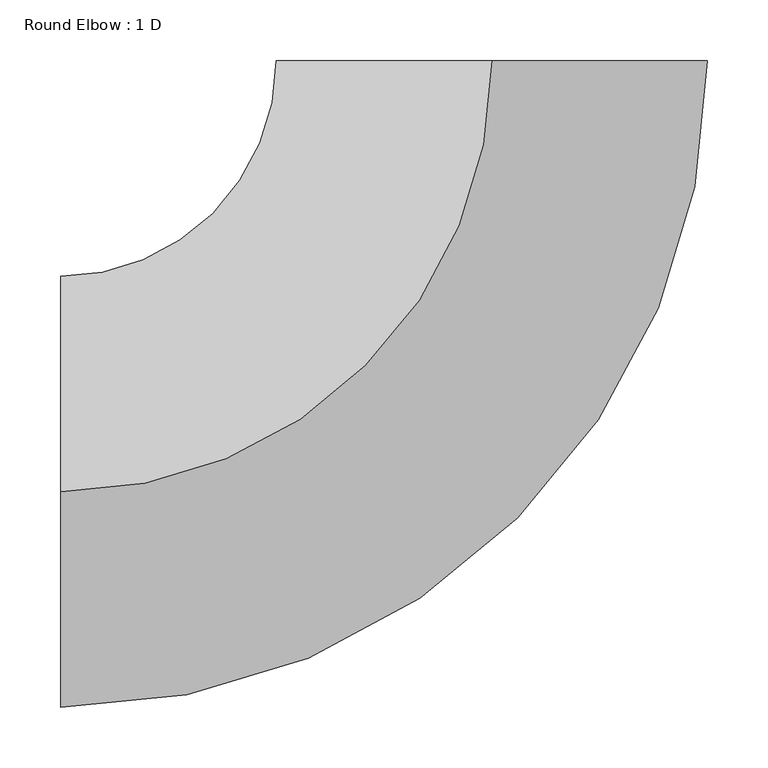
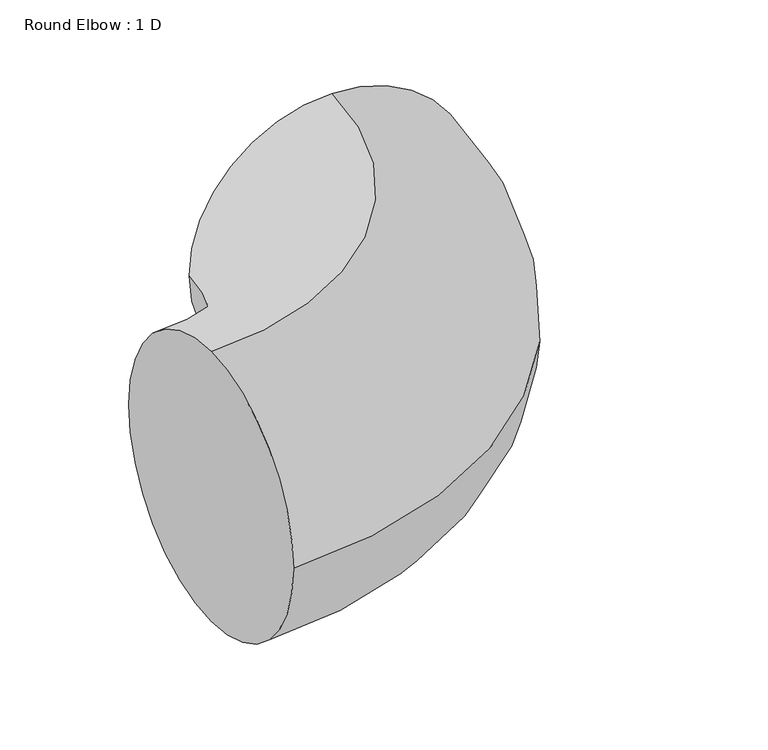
"""IFC4 building model written with IfcOpenShell, lengths in millimetres: duct fitting geometry, Round Elbow : 1 D."""

from ifc_helpers import new_model, si_unit, point, frame, origin, place, context, project, spatial, circle_curve, ellipse_curve, trimmed, source, transform, mapped, element, save
from ifc_brep_helpers import plane_surface, revolved_surface, advanced_brep


def round_elbow_1_d_a89bf638(model_context):
    return source(origin(), model_context, "Body", "AdvancedBrep", [
        advanced_brep(
        [(-355.6, 0.0, 177.8), (-355.6, 177.8, 0.0), (-355.6, 0.0, -177.8), (-355.6, -177.8, 0.0), (0.0, 355.6, 177.8), (177.8, 355.6, 0.0), (0.0, 355.6, -177.8), (-177.8, 355.6, 0.0)],
        [
            (0, 1, circle_curve(frame((-355.6, 0.0, 0.0), z_axis=(-1.0, 0.0, 0.0), x_axis=(0.0, 1.0, 0.0)), 177.8)),
            (1, 2, circle_curve(frame((-355.6, 0.0, 0.0), z_axis=(-1.0, 0.0, 0.0), x_axis=(0.0, 1.0, 0.0)), 177.8)),
            (2, 3, circle_curve(frame((-355.6, 0.0, 0.0), z_axis=(-1.0, 0.0, 0.0), x_axis=(0.0, 1.0, 0.0)), 177.8)),
            (3, 0, circle_curve(frame((-355.6, 0.0, 0.0), z_axis=(-1.0, 0.0, 0.0), x_axis=(0.0, 1.0, 0.0)), 177.8)),
            (4, 5, circle_curve(frame((0.0, 355.6, 0.0), z_axis=(0.0, 1.0, 0.0), x_axis=(-1.0, 0.0, 0.0)), 177.8)),
            (5, 6, circle_curve(frame((0.0, 355.6, 0.0), z_axis=(0.0, 1.0, 0.0), x_axis=(-1.0, 0.0, 0.0)), 177.8)),
            (6, 7, circle_curve(frame((0.0, 355.6, 0.0), z_axis=(0.0, 1.0, 0.0), x_axis=(-1.0, 0.0, 0.0)), 177.8)),
            (7, 4, circle_curve(frame((0.0, 355.6, 0.0), z_axis=(0.0, 1.0, 0.0), x_axis=(-1.0, 0.0, 0.0)), 177.8)),
            (7, 1, circle_curve(frame((-355.6, 355.6, 0.0), z_axis=(0.0, 0.0, -1.0), x_axis=(0.0, -1.0, 0.0)), 177.8)),
            (0, 4, circle_curve(frame((-355.6, 355.6, 177.8), z_axis=(0.0, 0.0, 1.0), x_axis=(0.0, -1.0, 0.0)), 355.6)),
            (6, 2, circle_curve(frame((-355.6, 355.6, -177.8), z_axis=(0.0, 0.0, -1.0), x_axis=(0.0, -1.0, 0.0)), 355.6)),
            (5, 3, circle_curve(frame((-355.6, 355.6, 0.0), z_axis=(0.0, 0.0, -1.0), x_axis=(0.0, -1.0, 0.0)), 533.4)),
        ],
        [
            plane_surface(frame((-355.6, 0.0, 0.0), z_axis=(-1.0, 0.0, 0.0), x_axis=(0.0, 0.0, 1.0))),
            plane_surface(frame((0.0, 355.6, 0.0), z_axis=(0.0, 1.0, 0.0), x_axis=(0.0, 0.0, 1.0))),
            revolved_surface(trimmed(ellipse_curve(frame((-355.6, 0.0, 0.0), z_axis=(-1.0, 0.0, 0.0), x_axis=(0.0, 1.0, 0.0)), 177.8, 177.8), [point((-355.6, 0.0, 177.8))], [point((-355.6, 177.8, 0.0))], True, "CARTESIAN"), (-355.6, 355.6, 0.0), (0.0, 0.0, 1.0)),
            revolved_surface(trimmed(ellipse_curve(frame((-355.6, 0.0, 0.0), z_axis=(-1.0, 0.0, 0.0), x_axis=(0.0, 1.0, 0.0)), 177.8, 177.8), [point((-355.6, 177.8, 0.0))], [point((-355.6, 0.0, -177.8))], True, "CARTESIAN"), (-355.6, 355.6, 0.0), (0.0, 0.0, 1.0)),
            revolved_surface(trimmed(ellipse_curve(frame((-355.6, 0.0, 0.0), z_axis=(-1.0, 0.0, 0.0), x_axis=(0.0, 1.0, 0.0)), 177.8, 177.8), [point((-355.6, 0.0, -177.8))], [point((-355.6, -177.8, 0.0))], True, "CARTESIAN"), (-355.6, 355.6, 0.0), (0.0, 0.0, 1.0)),
            revolved_surface(trimmed(ellipse_curve(frame((-355.6, 0.0, 0.0), z_axis=(-1.0, 0.0, 0.0), x_axis=(0.0, 1.0, 0.0)), 177.8, 177.8), [point((-355.6, -177.8, 0.0))], [point((-355.6, 0.0, 177.8))], True, "CARTESIAN"), (-355.6, 355.6, 0.0), (0.0, 0.0, 1.0)),
        ],
        [
            (0, [[1, 2, 3, 4]]),
            (1, [[5, 6, 7, 8]]),
            (2, [[9, -1, 10, -8]]),
            (3, [[11, -2, -9, -7]]),
            (4, [[12, -3, -11, -6]]),
            (5, [[-10, -4, -12, -5]]),
        ],
    ),
    ])


if __name__ == "__main__":
    model = new_model("IFC4")
    model_context = context("Model", 3, world=origin())
    ifc_project = project(units=[si_unit("LENGTHUNIT", "METRE", prefix="MILLI")], contexts=[model_context])
    site = spatial("IfcSite", under=ifc_project)
    building = spatial("IfcBuilding", under=site)
    placement = place(None, origin())
    round_elbow_1_d_shape = round_elbow_1_d_a89bf638(model_context)
    element("IfcDuctFitting", 1, ObjectType="Round Elbow : 1 D", at=placement, inside=building, context=model_context, shape_type="MappedRepresentation", body=[
        mapped(round_elbow_1_d_shape, transform((0.0, 0.0, 0.0), x_axis=(1.0, 0.0, 0.0), y_axis=(0.0, 1.0, 0.0), z_axis=(0.0, 0.0, 1.0))),
    ])
    save(model, "model.ifc")
